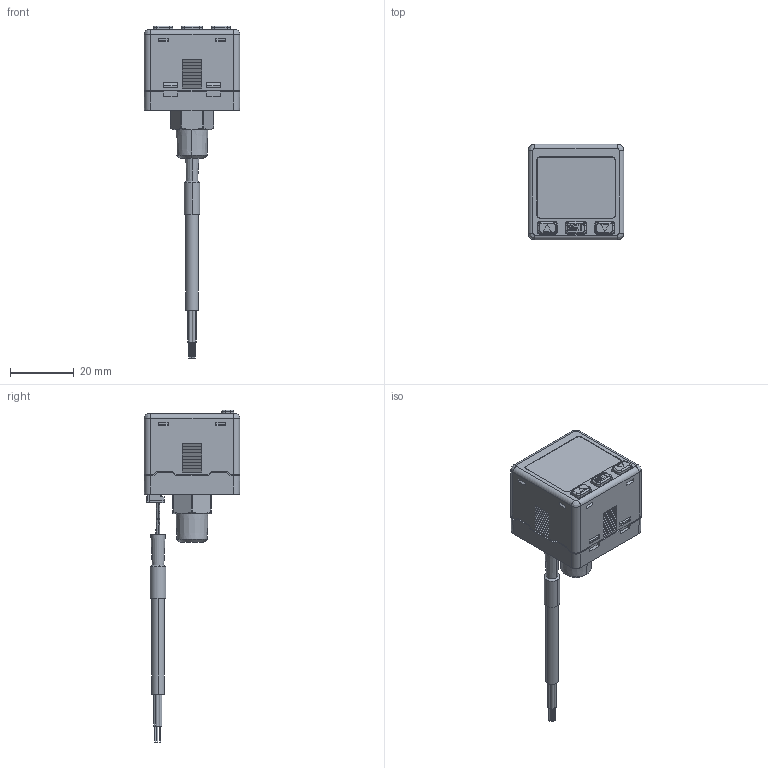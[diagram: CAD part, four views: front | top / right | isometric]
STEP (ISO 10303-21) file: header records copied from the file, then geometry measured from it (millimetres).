
FILE_DESCRIPTION((''),'2;1');
FILE_NAME('KP43-F1','2019-06-18T',('Stark'),(''),'CREO PARAMETRIC BY PTC INC, 2014500','CREO PARAMETRIC BY PTC INC, 2014500','');
FILE_SCHEMA(('CONFIG_CONTROL_DESIGN'));
Length unit declared in the file: millimetre
Products named in the file (1): KP43-F1
Bounding box: 30.03 x 30 x 104.05 mm (x, y, z)
Volume: 24047.4 mm3; surface area: 8109.5 mm2
Topology: 1 solids, 1 shells, 826 faces, 2091 edges, 1316 vertices
Faces by surface type: plane 653, cylinder 102, cone 30, bspline 27, torus 13, sphere 1
Entity records: 25502 total; most frequent: CARTESIAN_POINT 5644, ORIENTED_EDGE 4182, DIRECTION 3887, EDGE_CURVE 2091, VECTOR 1745, LINE 1745, VERTEX_POINT 1316, AXIS2_PLACEMENT_3D 1071
